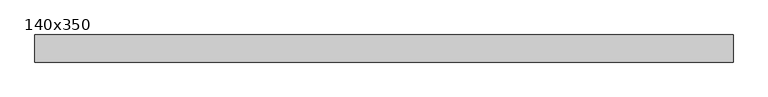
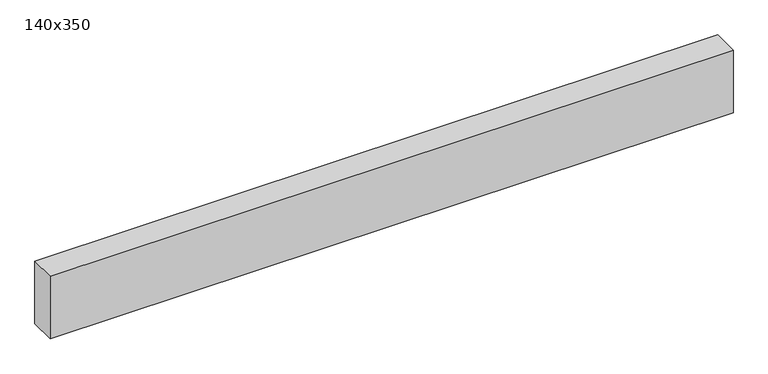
"""IFC4 building model written with IfcOpenShell, lengths in millimetres: beam geometry, Bjelke Limtre Stiplet : 140x350."""

import ifcopenshell
import ifcopenshell.guid

model = None  # the IFC model being written
_history = None  # IfcOwnerHistory: only IFC2X3 demands one
_inside = {}  # id of a spatial element -> (the spatial element, [elements in it])
_under = {}  # id of a project, library or spatial element -> (it, [spatial elements below it])
_declared = {}  # id of a project -> (the project, [libraries it declares])
_typed = {}  # id of a type object -> (the type object, [elements of that type])
_made_of = {}  # id of a material, layer set ... -> (it, [elements and type objects made of it])


def new_model(schema):
    """Start an empty IFC model of exactly this schema.

    Asked for "IFC4X3", IfcOpenShell would pick the latest addendum, in which some entities
    have other attributes; the version numbers below select the first issue.
    IFC2X3 requires an IfcOwnerHistory on every rooted entity: one is made here for all.
    """
    global model, _history
    if schema == "IFC4X3":
        model = ifcopenshell.file(schema_version=(4, 3, 0, 0))
    else:
        model = ifcopenshell.file(schema=schema)
    _inside.clear()
    _under.clear()
    _declared.clear()
    _typed.clear()
    _made_of.clear()
    _history = None
    if model.schema == "IFC2X3":
        org = make("IfcOrganization", Name="unknown")
        user = make(
            "IfcPersonAndOrganization",
            ThePerson=make("IfcPerson", FamilyName="unknown"),
            TheOrganization=org,
        )
        app = make(
            "IfcApplication",
            ApplicationDeveloper=org,
            Version="unknown",
            ApplicationFullName="unknown",
            ApplicationIdentifier="unknown",
        )
        _history = make(
            "IfcOwnerHistory",
            OwningUser=user,
            OwningApplication=app,
            ChangeAction="ADDED",
            CreationDate=0,
        )
    return model


def make(cls, **values):
    """One entity of the class cls with the attributes given. An attribute that is None is left unset."""
    return model.create_entity(
        cls, **{name: value for name, value in values.items() if value is not None}
    )


def rooted(cls, **values):
    """An entity with a GlobalId (a new one), such as an element, a storey or a relation."""
    return make(cls, GlobalId=ifcopenshell.guid.new(), OwnerHistory=_history, **values)


def si_unit(unit_type, name, prefix=None):
    """IfcSIUnit, for example si_unit("LENGTHUNIT", "METRE", prefix="MILLI")."""
    return make("IfcSIUnit", UnitType=unit_type, Prefix=prefix, Name=name)


def assignment(units):
    """IfcUnitAssignment: the units of a project."""
    return None if units is None else make("IfcUnitAssignment", Units=units)


def point(xyz):
    """IfcCartesianPoint."""
    return None if xyz is None else make("IfcCartesianPoint", Coordinates=xyz)


def direction(xyz):
    """IfcDirection."""
    return None if xyz is None else make("IfcDirection", DirectionRatios=xyz)


def frame(location, z_axis=None, x_axis=None):
    """IfcAxis2Placement3D, a coordinate frame: its origin and axes. An axis left out is left unset."""
    return make(
        "IfcAxis2Placement3D",
        Location=point(location),
        Axis=direction(z_axis),
        RefDirection=direction(x_axis),
    )


def origin():
    """The frame at (0, 0, 0) with its axes left unset."""
    return frame((0.0, 0.0, 0.0))


def place(relative_to, where):
    """IfcLocalPlacement: puts the frame where relative to a parent placement (None: the world)."""
    return make(
        "IfcLocalPlacement", PlacementRelTo=relative_to, RelativePlacement=where
    )


def context(
    kind, dimensions, precision=None, world=None, true_north=None, identifier=None
):
    """IfcGeometricRepresentationContext, for example the 3D "Model" context."""
    return make(
        "IfcGeometricRepresentationContext",
        ContextIdentifier=identifier,
        ContextType=kind,
        CoordinateSpaceDimension=dimensions,
        Precision=precision,
        WorldCoordinateSystem=world,
        TrueNorth=true_north,
    )


def project(units=None, contexts=None):
    """IfcProject with its units and contexts."""
    return rooted(
        "IfcProject",
        Name="project",
        RepresentationContexts=contexts,
        UnitsInContext=assignment(units),
    )


def spatial(cls, under=None, at=None, **own):
    """A site, building, storey or space (cls), placed at a placement, below another one or the project."""
    s = rooted(cls, ObjectPlacement=at, **own)
    if under is not None:
        _under.setdefault(under.id(), (under, []))[1].append(s)
    return s


def polyline(points):
    """IfcPolyline through the points."""
    return make("IfcPolyline", Points=[point(p) for p in points])


def outline(outer, holes=None, kind="AREA"):
    """IfcArbitraryClosedProfileDef: a profile drawn as a closed curve; with holes, ...WithVoids."""
    if holes is None:
        return make("IfcArbitraryClosedProfileDef", ProfileType=kind, OuterCurve=outer)
    return make(
        "IfcArbitraryProfileDefWithVoids",
        ProfileType=kind,
        OuterCurve=outer,
        InnerCurves=holes,
    )


def extrude(swept, where, along, depth):
    """IfcExtrudedAreaSolid: the profile swept, set in the frame where, extruded along a direction by depth."""
    return make(
        "IfcExtrudedAreaSolid",
        SweptArea=swept,
        Position=where,
        ExtrudedDirection=direction(along),
        Depth=depth,
    )


def shape(context_of_items, identifier, shape_type, items):
    """IfcShapeRepresentation: the items that make up one representation, for example the "Body"."""
    return make(
        "IfcShapeRepresentation",
        ContextOfItems=context_of_items,
        RepresentationIdentifier=identifier,
        RepresentationType=shape_type,
        Items=items,
    )


def source(mapping_origin, context_of_items, identifier, shape_type, items):
    """IfcRepresentationMap: a shape defined once, which mapped items show again and again."""
    return make(
        "IfcRepresentationMap",
        MappingOrigin=mapping_origin,
        MappedRepresentation=shape(context_of_items, identifier, shape_type, items),
    )


def transform(
    local_origin,
    x_axis=None,
    y_axis=None,
    z_axis=None,
    scale=None,
    scale2=None,
    scale3=None,
    uniform=True,
):
    """IfcCartesianTransformationOperator3D, or its non-uniform kind. x_axis, y_axis, z_axis: its Axis1, 2, 3."""
    if uniform:
        return make(
            "IfcCartesianTransformationOperator3D",
            Axis1=direction(x_axis),
            Axis2=direction(y_axis),
            LocalOrigin=point(local_origin),
            Scale=scale,
            Axis3=direction(z_axis),
        )
    return make(
        "IfcCartesianTransformationOperator3DnonUniform",
        Axis1=direction(x_axis),
        Axis2=direction(y_axis),
        LocalOrigin=point(local_origin),
        Scale=scale,
        Axis3=direction(z_axis),
        Scale2=scale2,
        Scale3=scale3,
    )


def mapped(mapping_source, mapping_target):
    """IfcMappedItem: shows the shape of a source again, moved by a transform."""
    return make(
        "IfcMappedItem", MappingSource=mapping_source, MappingTarget=mapping_target
    )


def made_of(thing, what):
    """Note that an element or type object is made of a material, layer set ...; save() writes the relation."""
    if what is not None:
        _made_of.setdefault(what.id(), (what, []))[1].append(thing)
    return thing


def element(
    cls,
    number,
    at=None,
    inside=None,
    cuts=None,
    type_object=None,
    material=None,
    context=None,
    identifier="Body",
    shape_type=None,
    held_by="IfcProductDefinitionShape",
    body=None,
    shapes=None,
    **own,
):
    """One element of the class cls, such as IfcWall. Its Tag is "e" and its number.

    at: its placement. inside: the storey or other place that contains it. cuts: it is an
    opening in that element (IfcRelVoidsElement). A single representation is given by context,
    identifier, shape_type and body (its items); several are given by shapes. held_by: the class
    of the entity that holds the representations. save() writes the other relations.
    """
    e = rooted(cls, Tag="e%d" % number, ObjectPlacement=at, **own)
    if body is not None:
        shapes = [shape(context, identifier, shape_type, body)]
    if shapes is not None:
        e.Representation = make(held_by, Representations=shapes)
    if inside is not None:
        _inside.setdefault(inside.id(), (inside, []))[1].append(e)
    if cuts is not None:
        rooted(
            "IfcRelVoidsElement", RelatingBuildingElement=cuts, RelatedOpeningElement=e
        )
    if type_object is not None:
        _typed.setdefault(type_object.id(), (type_object, []))[1].append(e)
    return made_of(e, material)


def aggregate(whole, parts):
    """IfcRelAggregates: a whole, such as a stair, and the parts it consists of."""
    return rooted("IfcRelAggregates", RelatingObject=whole, RelatedObjects=parts)


def save(model, path):
    """Write the relations noted so far, then the file.

    IfcRelAggregates (storeys below a building ...), IfcRelContainedInSpatialStructure (elements
    in a storey), IfcRelDefinesByType, IfcRelAssociatesMaterial and IfcRelDeclares: one each for
    every whole, place, type object, material and project.
    """
    for whole, parts in _under.values():
        aggregate(whole, parts)
    for where, things in _inside.values():
        rooted(
            "IfcRelContainedInSpatialStructure",
            RelatedElements=things,
            RelatingStructure=where,
        )
    for kind, things in _typed.values():
        rooted("IfcRelDefinesByType", RelatedObjects=things, RelatingType=kind)
    for what, things in _made_of.values():
        rooted("IfcRelAssociatesMaterial", RelatedObjects=things, RelatingMaterial=what)
    for by, libraries in _declared.values():
        rooted("IfcRelDeclares", RelatingContext=by, RelatedDefinitions=libraries)
    model.write(path)


def beam_140x350_947e23fa(model_context):
    return source(origin(), model_context, "Body", "SweptSolid", [
        extrude(outline(polyline([(1802.8873794, 70.0), (1802.8873794, -70.0), (-1802.8873794, -70.0), (-1802.8873794, 70.0), (1802.8873794, 70.0)])), frame((0.0, 0.0, -301.0), z_axis=(0.0, 0.0, 1.0), x_axis=(1.0, 0.0, 0.0)), (0.0, 0.0, 1.0), 350.0),
    ])


if __name__ == "__main__":
    model = new_model("IFC4")
    model_context = context("Model", 3, world=origin())
    ifc_project = project(units=[si_unit("LENGTHUNIT", "METRE", prefix="MILLI")], contexts=[model_context])
    site = spatial("IfcSite", under=ifc_project)
    building = spatial("IfcBuilding", under=site)
    placement = place(None, origin())
    beam_140x350_shape = beam_140x350_947e23fa(model_context)
    element("IfcBeam", 1, ObjectType="Bjelke Limtre Stiplet : 140x350", at=placement, inside=building, context=model_context, shape_type="MappedRepresentation", body=[
        mapped(beam_140x350_shape, transform((0.0, 0.0, 0.0), x_axis=(1.0, 0.0, 0.0), y_axis=(0.0, 1.0, 0.0), z_axis=(0.0, 0.0, 1.0))),
    ])
    save(model, "model.ifc")
